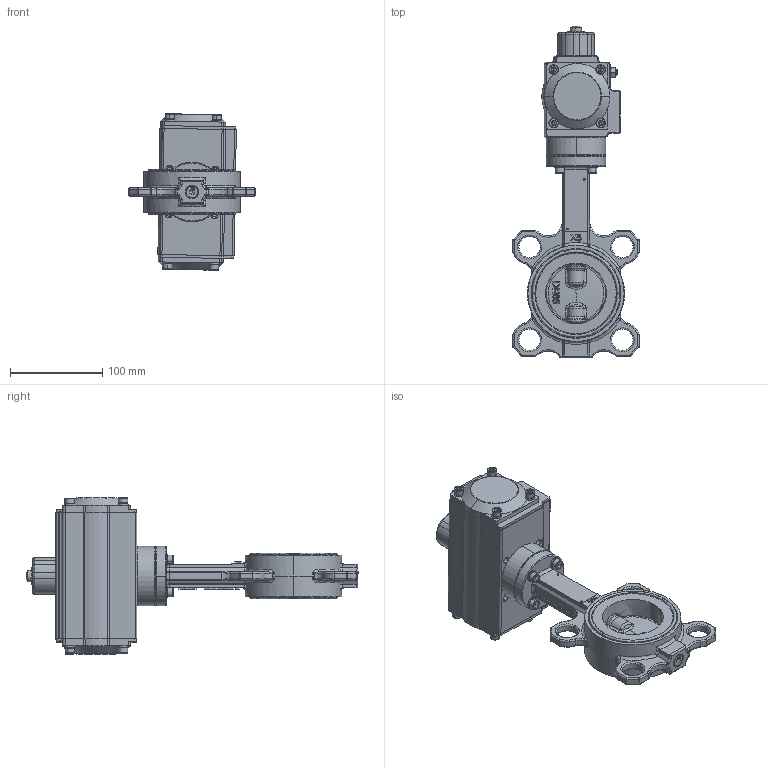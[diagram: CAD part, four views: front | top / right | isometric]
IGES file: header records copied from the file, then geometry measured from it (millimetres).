
Start section: SolidWorks IGES file using NURBS representation for surfaces
Global section: file name: H:\BE BIBLIOTHEQUE 3D\Projet_Biblio3D_2016\FSK\VPI\VPI-N03\VPI-N03 DN 65.Igs; native system: SolidWorks 2014; preprocessor: SolidWorks 2014; author: a.cartier; date: 160929.170822; units: millimetre
Bounding box: 137 x 360.54 x 169.99 mm (x, y, z)
Volume: 1048413.6 mm3; surface area: 293589.2 mm2
Topology: 51 solids, 51 shells, 2913 faces, 7295 edges, 4431 vertices
Faces by surface type: bspline 2913
